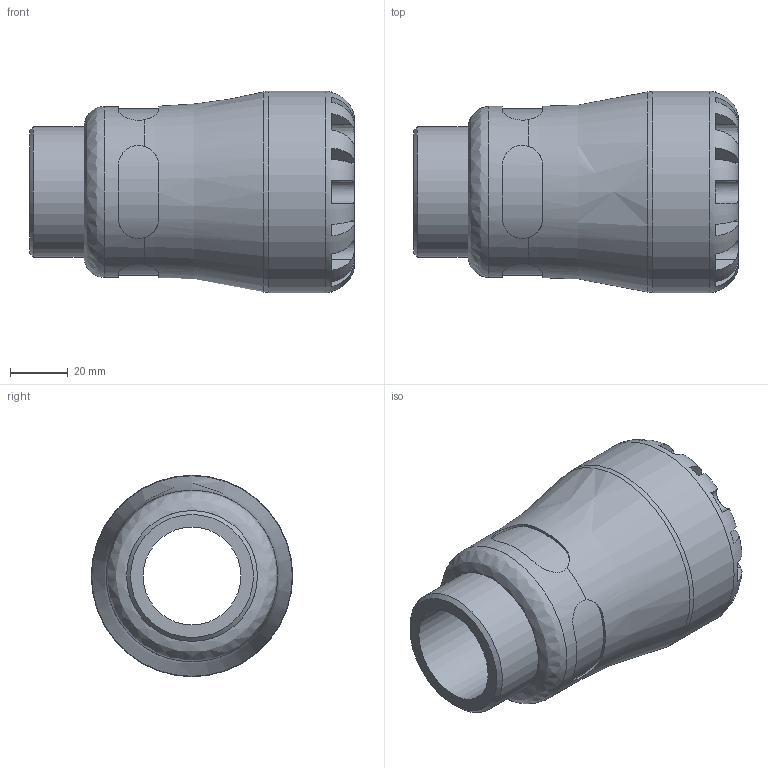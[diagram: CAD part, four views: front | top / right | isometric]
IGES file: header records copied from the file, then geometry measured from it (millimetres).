
Global section: file name: 107200040015_197200040015.ipt; native system: Autodesk Inventor 2015; preprocessor: unknown; author: KIM; date: 20170122.104939; units: millimetre
Bounding box: 113 x 70 x 70 mm (x, y, z)
Volume: 198906.3 mm3; surface area: 40533.6 mm2
Topology: 1 solids, 1 shells, 99 faces, 264 edges, 169 vertices
Faces by surface type: plane 60, revolution 23, cylinder 15, cone 1
Full cylindrical faces by diameter (mm): 45.485 x1, 59.5 x1, 70 x1
